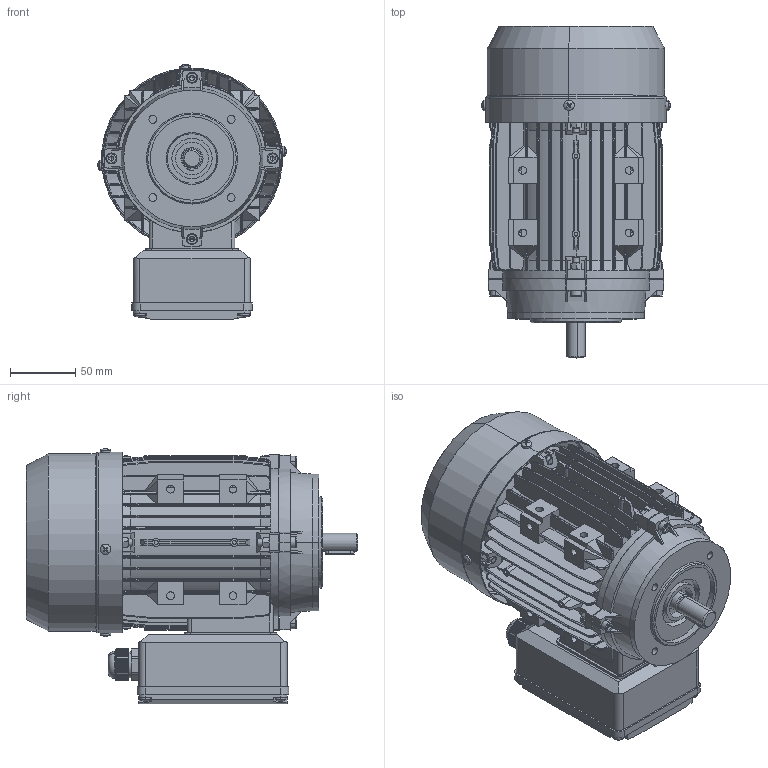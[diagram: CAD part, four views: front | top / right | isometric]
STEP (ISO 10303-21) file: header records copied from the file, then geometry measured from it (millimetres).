
FILE_DESCRIPTION (( 'STEP AP214' ), '1' );
FILE_NAME ('BMM0055.07D414.11.step', '2020-04-23T12:48:22', ( '' ), ( '' ), 'SwSTEP 2.0', 'SolidWorks 2019', '' );
FILE_SCHEMA (( 'AUTOMOTIVE_DESIGN' ));
Length unit declared in the file: millimetre
Products named in the file (1): BMM0055.07D414.11
Bounding box: 144.92 x 255 x 196.46 mm (x, y, z)
Volume: 651422.6 mm3; surface area: 506542.2 mm2
Topology: 33 solids, 33 shells, 3475 faces, 9144 edges, 5725 vertices
Faces by surface type: plane 1837, cylinder 1019, cone 217, torus 142, bspline 142, sphere 118
Entity records: 122922 total; most frequent: CARTESIAN_POINT 38826, ORIENTED_EDGE 18124, DIRECTION 16628, EDGE_CURVE 9062, AXIS2_PLACEMENT_3D 5771, VERTEX_POINT 5725, VECTOR 5086, LINE 5086
